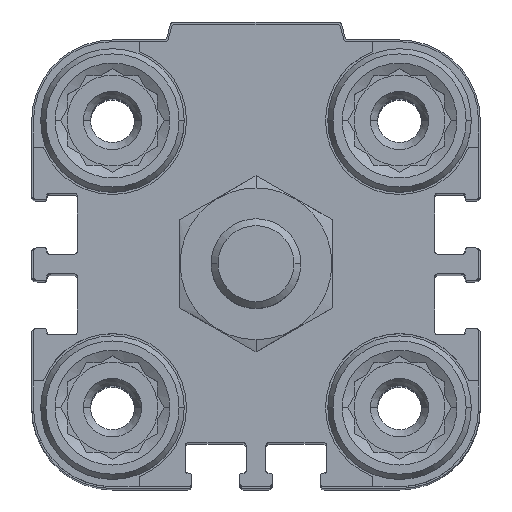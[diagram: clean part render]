
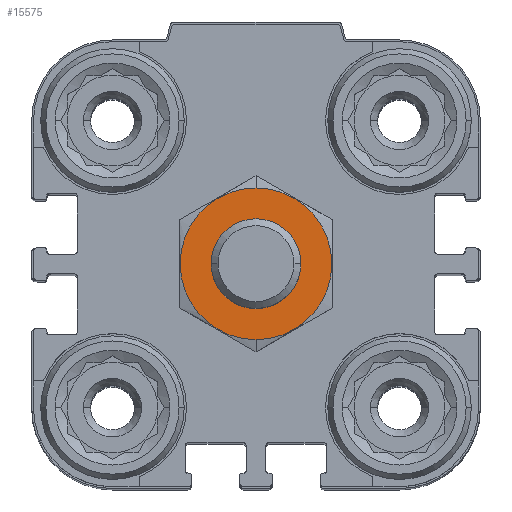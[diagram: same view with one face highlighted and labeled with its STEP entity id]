
A CAD part, top view. The second image highlights one B-rep face of the part: STEP entity #15575.
In plain terms, the highlighted planar face has unit normal (0, 0, 1).
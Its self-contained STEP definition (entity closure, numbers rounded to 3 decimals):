
#11 = DIRECTION ( 'NONE',  ( 0., -1., 0. ) ) ;
#1539 = ORIENTED_EDGE ( 'NONE', *, *, #18033, .T. ) ;
#2016 = CARTESIAN_POINT ( 'NONE',  ( 0., -5., 15. ) ) ;
#2116 = EDGE_CURVE ( 'NONE', #7762, #10893, #19978, .T. ) ;
#2973 = EDGE_LOOP ( 'NONE', ( #1539, #18927 ) ) ;
#3201 = DIRECTION ( 'NONE',  ( 0., -1., 0. ) ) ;
#3556 = CARTESIAN_POINT ( 'NONE',  ( 0., 0., 15. ) ) ;
#5052 = AXIS2_PLACEMENT_3D ( 'NONE', #7882, #20553, #20670 ) ;
#5637 = FACE_BOUND ( 'NONE', #2973, .T. ) ;
#6246 = CIRCLE ( 'NONE', #5052, 5. ) ;
#6597 = CARTESIAN_POINT ( 'NONE',  ( 0., -8.45, 15. ) ) ;
#6919 = ORIENTED_EDGE ( 'NONE', *, *, #10980, .F. ) ;
#6931 = CARTESIAN_POINT ( 'NONE',  ( 0., 0., 15. ) ) ;
#6999 = CARTESIAN_POINT ( 'NONE',  ( 0., 0., 15. ) ) ;
#7762 = VERTEX_POINT ( 'NONE', #19078 ) ;
#7882 = CARTESIAN_POINT ( 'NONE',  ( 0., 0., 15. ) ) ;
#8787 = EDGE_CURVE ( 'NONE', #19588, #12442, #20466, .T. ) ;
#9648 = PLANE ( 'NONE',  #18794 ) ;
#10823 = DIRECTION ( 'NONE',  ( 0., 0., -1. ) ) ;
#10893 = VERTEX_POINT ( 'NONE', #6597 ) ;
#10969 = CARTESIAN_POINT ( 'NONE',  ( 0., 0., 15. ) ) ;
#10980 = EDGE_CURVE ( 'NONE', #10893, #7762, #22805, .T. ) ;
#11246 = DIRECTION ( 'NONE',  ( 0., -1., 0. ) ) ;
#12286 = CARTESIAN_POINT ( 'NONE',  ( 0., 5., 15. ) ) ;
#12380 = ORIENTED_EDGE ( 'NONE', *, *, #2116, .F. ) ;
#12442 = VERTEX_POINT ( 'NONE', #12286 ) ;
#14033 = DIRECTION ( 'NONE',  ( 0., 0., -1. ) ) ;
#15575 = ADVANCED_FACE ( 'NONE', ( #22312, #5637 ), #9648, .F. ) ;
#16315 = DIRECTION ( 'NONE',  ( 0., 0., -1. ) ) ;
#16563 = AXIS2_PLACEMENT_3D ( 'NONE', #6931, #10823, #19941 ) ;
#16588 = AXIS2_PLACEMENT_3D ( 'NONE', #10969, #16315, #11 ) ;
#18033 = EDGE_CURVE ( 'NONE', #12442, #19588, #6246, .T. ) ;
#18794 = AXIS2_PLACEMENT_3D ( 'NONE', #3556, #24026, #11246 ) ;
#18927 = ORIENTED_EDGE ( 'NONE', *, *, #8787, .T. ) ;
#19078 = CARTESIAN_POINT ( 'NONE',  ( 0., 8.45, 15. ) ) ;
#19588 = VERTEX_POINT ( 'NONE', #2016 ) ;
#19941 = DIRECTION ( 'NONE',  ( 0., -1., 0. ) ) ;
#19978 = CIRCLE ( 'NONE', #23110, 8.45 ) ;
#20466 = CIRCLE ( 'NONE', #16563, 5. ) ;
#20553 = DIRECTION ( 'NONE',  ( 0., 0., -1. ) ) ;
#20670 = DIRECTION ( 'NONE',  ( 0., -1., 0. ) ) ;
#22312 = FACE_OUTER_BOUND ( 'NONE', #23669, .T. ) ;
#22805 = CIRCLE ( 'NONE', #16588, 8.45 ) ;
#23110 = AXIS2_PLACEMENT_3D ( 'NONE', #6999, #14033, #3201 ) ;
#23669 = EDGE_LOOP ( 'NONE', ( #6919, #12380 ) ) ;
#24026 = DIRECTION ( 'NONE',  ( 0., 0., -1. ) ) ;
